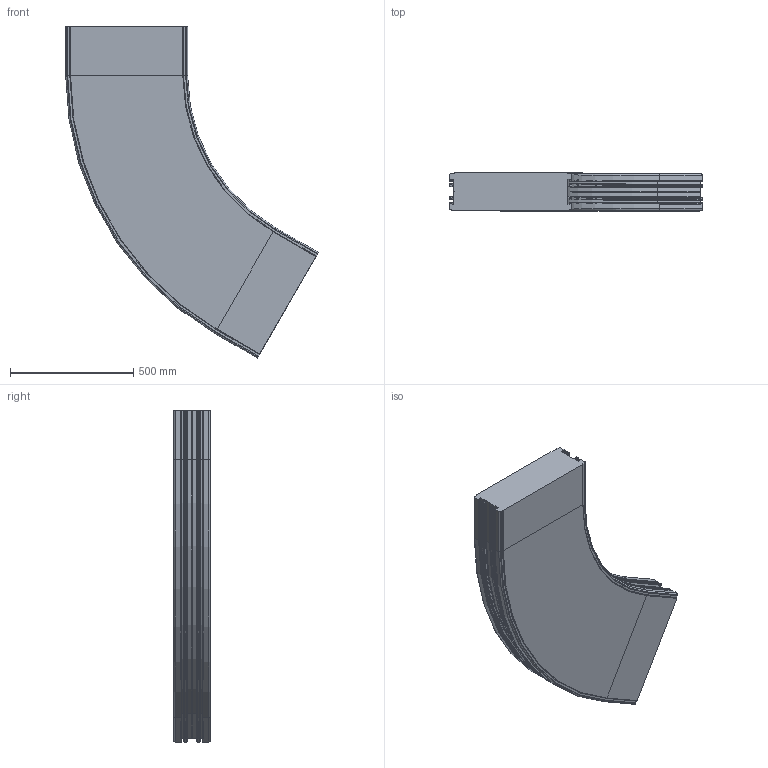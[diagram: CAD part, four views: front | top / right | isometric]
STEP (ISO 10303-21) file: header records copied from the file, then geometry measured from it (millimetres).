
FILE_DESCRIPTION (( 'STEP AP214' ), '1' );
FILE_NAME ('F2-1800-C960-60.STEP', '2016-02-16T13:17:28', ( '' ), ( '' ), 'SwSTEP 2.0', 'SolidWorks 2014', '' );
FILE_SCHEMA (( 'AUTOMOTIVE_DESIGN' ));
Length unit declared in the file: millimetre
Products named in the file (1): F2-1800-C960-60
Bounding box: 1023.71 x 153.4 x 1345.29 mm (x, y, z)
Volume: 102201548.5 mm3; surface area: 2513707.4 mm2
Topology: 1 solids, 1 shells, 644 faces, 1498 edges, 856 vertices
Faces by surface type: plane 300, cylinder 244, torus 92, cone 8
Entity records: 17974 total; most frequent: DIRECTION 3370, CARTESIAN_POINT 2999, ORIENTED_EDGE 2996, EDGE_CURVE 1498, AXIS2_PLACEMENT_3D 1227, VECTOR 916, LINE 916, VERTEX_POINT 856
